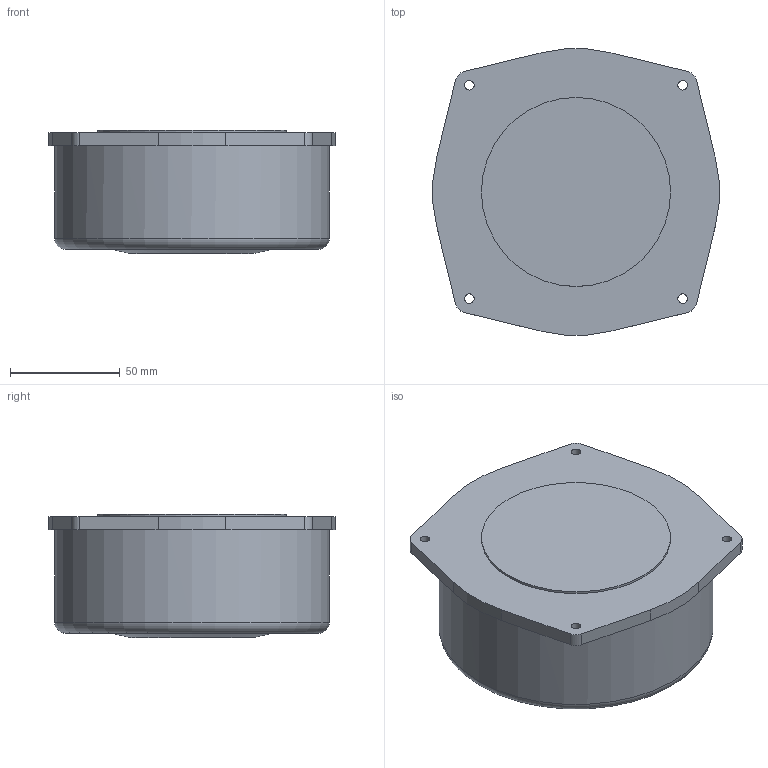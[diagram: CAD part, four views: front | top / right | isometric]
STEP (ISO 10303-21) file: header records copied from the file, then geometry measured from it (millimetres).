
FILE_DESCRIPTION(/* description */ (''),/* implementation_level */ '2;1');
FILE_NAME(/* name */ 'BST-2_3D v1.step',/* time_stamp */ '2025-08-26T16:12:40-04:00',/* author */ (''),/* organization */ (''),/* preprocessor_version */ 'ST-DEVELOPER v20.1',/* originating_system */ 'Autodesk Translation Framework v14.10.0.0',/* authorisation */ '');
FILE_SCHEMA (('AUTOMOTIVE_DESIGN { 1 0 10303 214 3 1 1 }','AP242_MANAGED_MODEL_BASED_3D_ENGINEERING_MIM_LF { 1 0 10303 442 3 1 4 }'));
Length unit declared in the file: millimetre
Products named in the file (1): ST802
Bounding box: 130.09 x 130.09 x 56 mm (x, y, z)
Volume: 672530 mm3; surface area: 50145.6 mm2
Topology: 1 solids, 1 shells, 119 faces, 317 edges, 211 vertices
Faces by surface type: plane 85, cylinder 22, cone 5, bspline 4, torus 3
Full cylindrical faces by diameter (mm): 4.3 x4, 6 x4, 8.7 x4, 86 x1, 125 x1
Entity records: 3997 total; most frequent: CARTESIAN_POINT 1016, ORIENTED_EDGE 634, DIRECTION 575, EDGE_CURVE 317, VERTEX_POINT 211, AXIS2_PLACEMENT_3D 198, LINE 179, VECTOR 179
